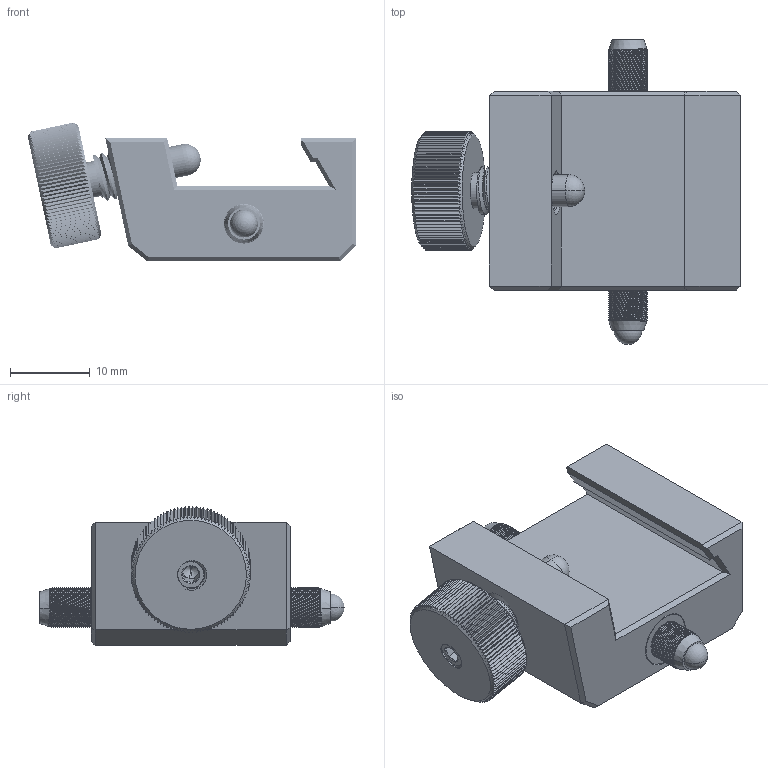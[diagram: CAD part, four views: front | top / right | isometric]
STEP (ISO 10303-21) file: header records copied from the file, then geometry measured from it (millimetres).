
FILE_DESCRIPTION((''),'2;1');
FILE_NAME('OOP-RP_ASM','2024-12-04T15:04:52',('R&D'),(''),'CREO PARAMETRIC BY PTC INC, 2021063','CREO PARAMETRIC BY PTC INC, 2021063','');
FILE_SCHEMA(('CONFIG_CONTROL_DESIGN'));
Products named in the file (11): OOP-RP-A1; OOP-RP-A3; OOP-RP-A4; ISO14579-M2X6-8_8; OOP-RP-A5; M4X4_HS_7; OOP-RP-A2_ASM; OOP-RP-A6; OOP-RP-A7; OOP-RP-1; OOP-RP_ASM
Assembly tree (10 placements, depth 3):
  OOP-RP_ASM
    OOP-RP-A1
    OOP-RP-A2_ASM
      OOP-RP-A3
      OOP-RP-A4
      ISO14579-M2X6-8_8
      OOP-RP-A5
      M4X4_HS_7
    OOP-RP-A6
    OOP-RP-A7
    OOP-RP-1
Bounding box: 41.31 x 38.31 x 17.46 mm (x, y, z)
Volume: 9956.4 mm3; surface area: 6836.4 mm2
Topology: 9 solids, 9 shells, 1038 faces, 2869 edges, 1851 vertices
Faces by surface type: cylinder 530, plane 288, bspline 182, cone 32, sphere 4, torus 2
Entity records: 108529 total; most frequent: CARTESIAN_POINT 85081, ORIENTED_EDGE 5718, DIRECTION 3489, EDGE_CURVE 2859, VERTEX_POINT 1851, B_SPLINE_CURVE_WITH_KNOTS 1471, AXIS2_PLACEMENT_3D 1219, EDGE_LOOP 1058
